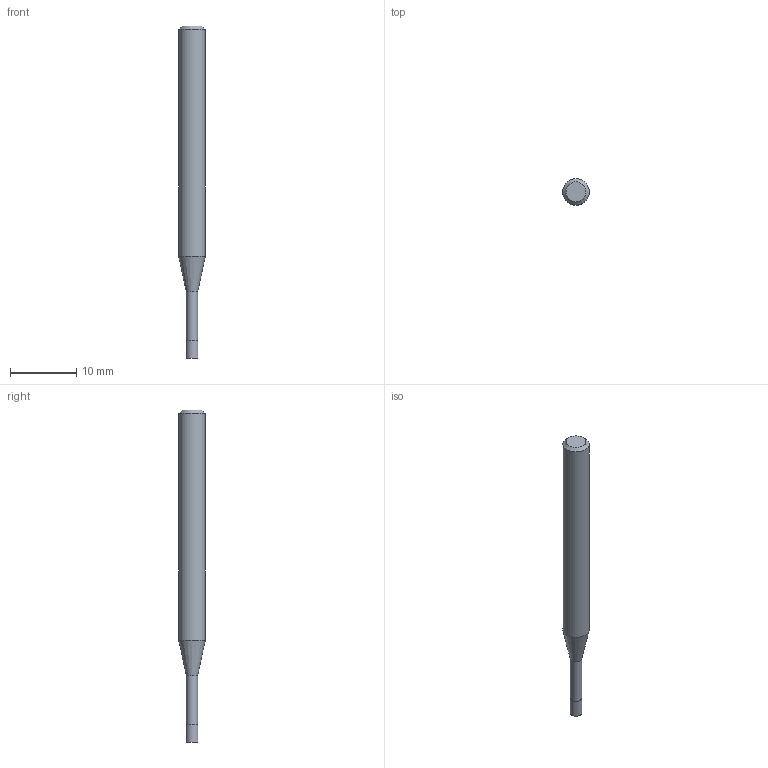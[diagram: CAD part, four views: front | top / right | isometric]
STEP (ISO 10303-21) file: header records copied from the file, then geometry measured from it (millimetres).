
FILE_DESCRIPTION((''),'2;1');
FILE_NAME('C:\Users\nsx150\AppData\Local\Temp\Mastercam 2021\17T8Q8S9EB\TEMP.step','2021-04-21T16:15:21',(''),(''),'STEP Write','Mastercam 2021 ... CNC Software, Inc.','');
FILE_SCHEMA(('AUTOMOTIVE_DESIGN'));
Length unit declared in the file: millimetre
Products named in the file (1): None
Bounding box: 4 x 4 x 50 mm (x, y, z)
Volume: 494.8 mm3; surface area: 556.1 mm2
Topology: 2 solids, 2 shells, 9 faces, 12 edges, 7 vertices
Faces by surface type: plane 4, cylinder 3, cone 2
Full cylindrical faces by diameter (mm): 1.74 x1, 1.8 x1, 4 x1
Entity records: 211 total; most frequent: DIRECTION 36, CARTESIAN_POINT 25, AXIS2_PLACEMENT_3D 18, ORIENTED_EDGE 14, EDGE_LOOP 14, STYLED_ITEM 12, ADVANCED_FACE 9, FACE_BOUND 8
